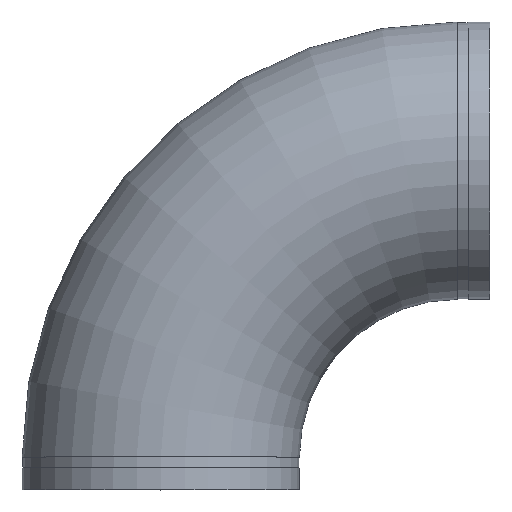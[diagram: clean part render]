
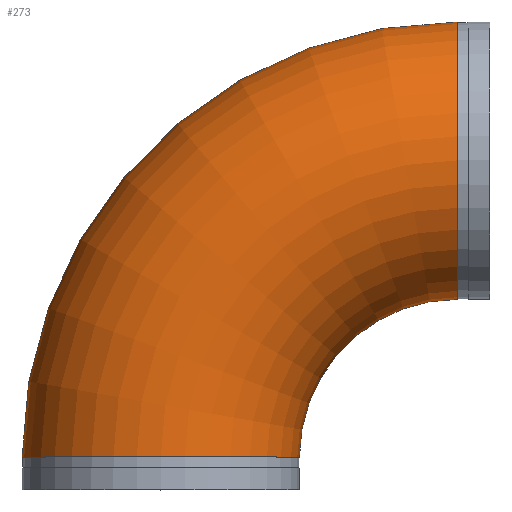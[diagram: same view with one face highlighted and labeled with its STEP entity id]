
A CAD part, top view. The second image highlights one B-rep face of the part: STEP entity #273.
In plain terms, the highlighted toroidal (fillet/blend) face has major radius 346.202 mm and minor radius 161.925 mm.
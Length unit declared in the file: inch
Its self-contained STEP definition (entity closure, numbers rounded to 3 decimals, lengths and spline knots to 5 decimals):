
#46=TOROIDAL_SURFACE('',#329,13.63,6.375);
#81=FACE_OUTER_BOUND('',#99,.T.);
#99=EDGE_LOOP('',(#227,#228,#229,#230,#231,#232));
#105=CIRCLE('',#298,6.375);
#106=CIRCLE('',#299,6.375);
#117=CIRCLE('',#315,6.375);
#118=CIRCLE('',#316,6.375);
#127=CIRCLE('',#330,7.255);
#129=VERTEX_POINT('',#460);
#130=VERTEX_POINT('',#461);
#141=VERTEX_POINT('',#491);
#142=VERTEX_POINT('',#492);
#151=EDGE_CURVE('',#129,#130,#105,.T.);
#152=EDGE_CURVE('',#130,#129,#106,.T.);
#165=EDGE_CURVE('',#141,#142,#117,.T.);
#166=EDGE_CURVE('',#142,#141,#118,.T.);
#178=EDGE_CURVE('',#142,#130,#127,.T.);
#227=ORIENTED_EDGE('',*,*,#165,.F.);
#228=ORIENTED_EDGE('',*,*,#166,.F.);
#229=ORIENTED_EDGE('',*,*,#178,.T.);
#230=ORIENTED_EDGE('',*,*,#152,.T.);
#231=ORIENTED_EDGE('',*,*,#151,.T.);
#232=ORIENTED_EDGE('',*,*,#178,.F.);
#273=ADVANCED_FACE('',(#81),#46,.T.);
#298=AXIS2_PLACEMENT_3D('',#462,#352,#353);
#299=AXIS2_PLACEMENT_3D('',#463,#354,#355);
#315=AXIS2_PLACEMENT_3D('',#493,#388,#389);
#316=AXIS2_PLACEMENT_3D('',#494,#390,#391);
#329=AXIS2_PLACEMENT_3D('',#517,#419,#420);
#330=AXIS2_PLACEMENT_3D('',#518,#421,#422);
#352=DIRECTION('center_axis',(-1.,0.,0.));
#353=DIRECTION('ref_axis',(0.,-1.,0.));
#354=DIRECTION('center_axis',(-1.,0.,0.));
#355=DIRECTION('ref_axis',(0.,-1.,0.));
#388=DIRECTION('center_axis',(0.,-1.,0.));
#389=DIRECTION('ref_axis',(1.,0.,0.));
#390=DIRECTION('center_axis',(0.,-1.,0.));
#391=DIRECTION('ref_axis',(1.,0.,0.));
#419=DIRECTION('center_axis',(0.,0.,1.));
#420=DIRECTION('ref_axis',(1.,0.,0.));
#421=DIRECTION('center_axis',(0.,0.,-1.));
#422=DIRECTION('ref_axis',(1.,0.,0.));
#460=CARTESIAN_POINT('',(13.63,21.505,0.));
#461=CARTESIAN_POINT('',(13.63,8.755,0.));
#462=CARTESIAN_POINT('Origin',(13.63,15.13,0.));
#463=CARTESIAN_POINT('Origin',(13.63,15.13,0.));
#491=CARTESIAN_POINT('',(-6.375,1.5,0.));
#492=CARTESIAN_POINT('',(6.375,1.5,0.));
#493=CARTESIAN_POINT('Origin',(0.,1.5,0.));
#494=CARTESIAN_POINT('Origin',(0.,1.5,0.));
#517=CARTESIAN_POINT('Origin',(13.63,1.5,0.));
#518=CARTESIAN_POINT('Origin',(13.63,1.5,0.));
